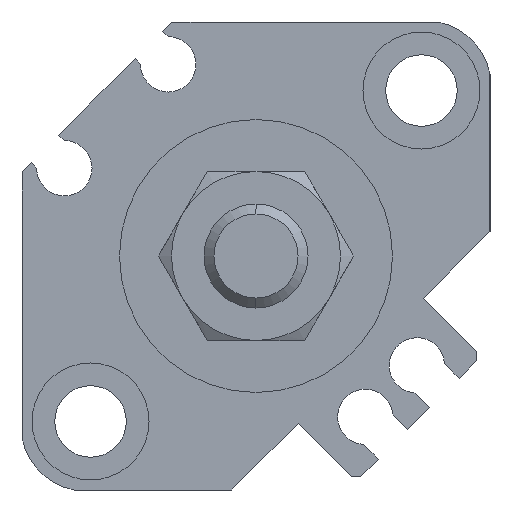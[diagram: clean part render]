
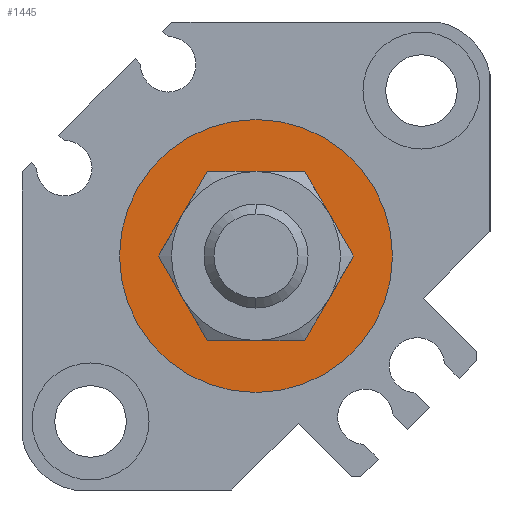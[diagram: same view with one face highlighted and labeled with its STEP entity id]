
A CAD part, left-side view. The second image highlights one B-rep face of the part: STEP entity #1445.
In plain terms, the highlighted planar face has unit normal (-1, 0, 0).
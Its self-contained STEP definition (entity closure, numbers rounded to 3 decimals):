
#65 = EDGE_CURVE ( 'NONE', #1298, #5015, #4736, .T. ) ;
#296 = DIRECTION ( 'NONE',  ( 0., 0., -1. ) ) ;
#424 = CARTESIAN_POINT ( 'NONE',  ( 1.6, 0., 0. ) ) ;
#430 = EDGE_CURVE ( 'NONE', #5015, #1298, #4543, .T. ) ;
#545 = DIRECTION ( 'NONE',  ( 0., 1., 0. ) ) ;
#696 = DIRECTION ( 'NONE',  ( 0., 0., -1. ) ) ;
#730 = AXIS2_PLACEMENT_3D ( 'NONE', #3978, #1568, #696 ) ;
#864 = DIRECTION ( 'NONE',  ( 0., 0., -1. ) ) ;
#989 = CIRCLE ( 'NONE', #730, 6.5 ) ;
#1114 = CARTESIAN_POINT ( 'NONE',  ( 1.6, 0., -6.5 ) ) ;
#1123 = CARTESIAN_POINT ( 'NONE',  ( 1.6, 0., 0. ) ) ;
#1159 = CIRCLE ( 'NONE', #2108, 6.5 ) ;
#1298 = VERTEX_POINT ( 'NONE', #5127 ) ;
#1445 = ADVANCED_FACE ( 'NONE', ( #3024, #4622 ), #4268, .F. ) ;
#1568 = DIRECTION ( 'NONE',  ( 1., 0., 0. ) ) ;
#1756 = EDGE_LOOP ( 'NONE', ( #5230, #2898 ) ) ;
#2031 = CARTESIAN_POINT ( 'NONE',  ( 1.6, 0., 0. ) ) ;
#2108 = AXIS2_PLACEMENT_3D ( 'NONE', #2031, #5003, #864 ) ;
#2196 = AXIS2_PLACEMENT_3D ( 'NONE', #2771, #5202, #296 ) ;
#2379 = DIRECTION ( 'NONE',  ( 0., 0., -1. ) ) ;
#2389 = AXIS2_PLACEMENT_3D ( 'NONE', #1123, #4054, #2379 ) ;
#2548 = CARTESIAN_POINT ( 'NONE',  ( 1.6, 0., 6.5 ) ) ;
#2584 = DIRECTION ( 'NONE',  ( 1., 0., 0. ) ) ;
#2771 = CARTESIAN_POINT ( 'NONE',  ( 1.6, 0., 0. ) ) ;
#2898 = ORIENTED_EDGE ( 'NONE', *, *, #3697, .T. ) ;
#3024 = FACE_OUTER_BOUND ( 'NONE', #4872, .T. ) ;
#3053 = ORIENTED_EDGE ( 'NONE', *, *, #430, .F. ) ;
#3149 = AXIS2_PLACEMENT_3D ( 'NONE', #424, #2584, #545 ) ;
#3258 = VERTEX_POINT ( 'NONE', #1114 ) ;
#3310 = ORIENTED_EDGE ( 'NONE', *, *, #65, .F. ) ;
#3496 = EDGE_CURVE ( 'NONE', #3596, #3258, #1159, .T. ) ;
#3596 = VERTEX_POINT ( 'NONE', #2548 ) ;
#3697 = EDGE_CURVE ( 'NONE', #3258, #3596, #989, .T. ) ;
#3978 = CARTESIAN_POINT ( 'NONE',  ( 1.6, 0., 0. ) ) ;
#4054 = DIRECTION ( 'NONE',  ( 1., 0., 0. ) ) ;
#4268 = PLANE ( 'NONE',  #3149 ) ;
#4543 = CIRCLE ( 'NONE', #2196, 10.5 ) ;
#4622 = FACE_BOUND ( 'NONE', #1756, .T. ) ;
#4736 = CIRCLE ( 'NONE', #2389, 10.5 ) ;
#4861 = CARTESIAN_POINT ( 'NONE',  ( 1.6, 0., 10.5 ) ) ;
#4872 = EDGE_LOOP ( 'NONE', ( #3053, #3310 ) ) ;
#5003 = DIRECTION ( 'NONE',  ( 1., 0., 0. ) ) ;
#5015 = VERTEX_POINT ( 'NONE', #4861 ) ;
#5127 = CARTESIAN_POINT ( 'NONE',  ( 1.6, 0., -10.5 ) ) ;
#5202 = DIRECTION ( 'NONE',  ( 1., 0., 0. ) ) ;
#5230 = ORIENTED_EDGE ( 'NONE', *, *, #3496, .T. ) ;
